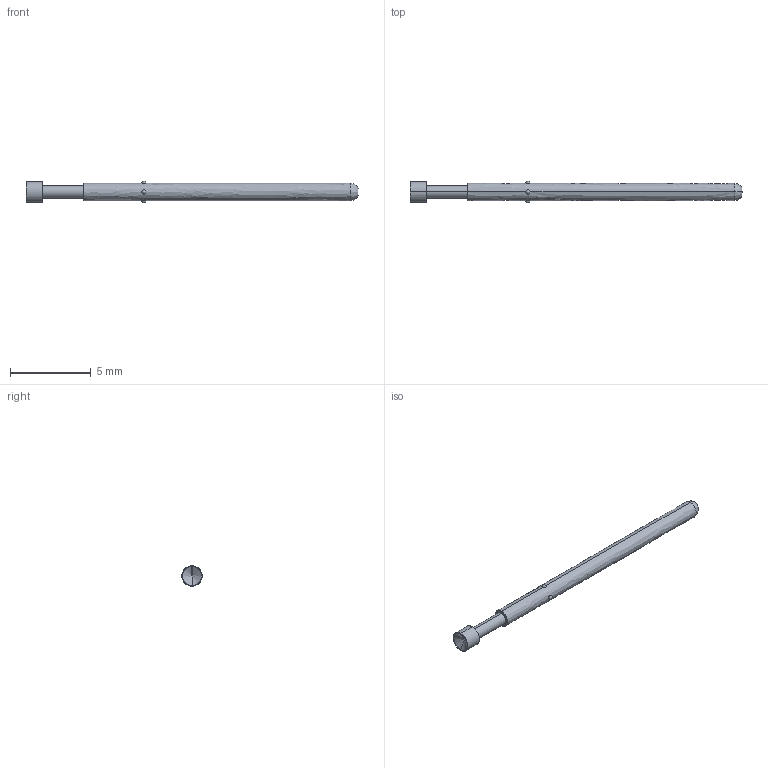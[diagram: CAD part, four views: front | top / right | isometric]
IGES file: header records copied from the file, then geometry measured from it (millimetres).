
Start section: SolidWorks IGES file using analytic representation for surfaces
Global section: file name: O:\PYLON\IGES FILES\P2663\P2663G-1V1S.IGS; native system: SolidWorks 2015; preprocessor: SolidWorks 2015; author: kgolden; date: 171019.103609; units: inch
Bounding box: 20.53 x 1.32 x 1.32 mm (x, y, z)
Surface area: 74.7 mm2 (no closed solid volume)
Topology: 0 solids, 0 shells, 24 faces, 300 edges, 282 vertices
Faces by surface type: revolution 18, bspline 6
